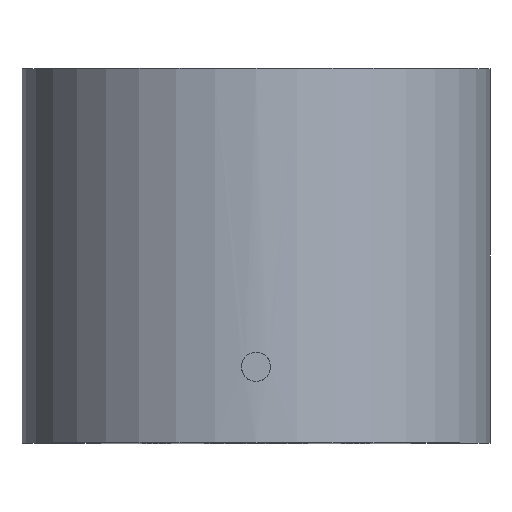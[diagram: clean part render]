
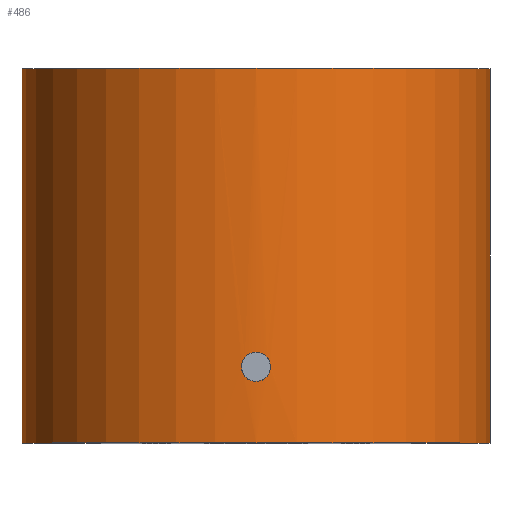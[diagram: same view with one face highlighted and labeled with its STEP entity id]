
A CAD part, top view. The second image highlights one B-rep face of the part: STEP entity #486.
In plain terms, the highlighted cylindrical face has radius 25 mm (diameter 50 mm), a full revolution.
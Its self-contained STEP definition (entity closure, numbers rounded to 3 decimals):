
#13=B_SPLINE_CURVE_WITH_KNOTS('',3,(#855,#856,#857,#858),.UNSPECIFIED.,
 .F.,.F.,(4,4),(0.,0.001),.UNSPECIFIED.);
#14=B_SPLINE_CURVE_WITH_KNOTS('',3,(#860,#861,#862,#863,#864,#865,#866,
#867,#868,#869),.UNSPECIFIED.,.F.,.F.,(4,2,2,2,4),(0.701,0.759,
0.818,0.876,0.934),.UNSPECIFIED.);
#15=B_SPLINE_CURVE_WITH_KNOTS('',3,(#871,#872,#873,#874,#875,#876,#877,
#878,#879,#880,#881,#882,#883,#884,#885,#886,#887,#888),.UNSPECIFIED.,.F.,
 .F.,(4,2,2,2,2,2,2,2,4),(0.234,0.292,0.35,
0.409,0.467,0.526,0.584,
0.642,0.701),.UNSPECIFIED.);
#16=B_SPLINE_CURVE_WITH_KNOTS('',3,(#889,#890,#891,#892,#893,#894,#895,
#896,#897,#898),.UNSPECIFIED.,.F.,.F.,(4,2,2,2,4),(0.001,
0.058,0.117,0.175,0.234),
 .UNSPECIFIED.);
#53=CYLINDRICAL_SURFACE('',#577,25.);
#78=FACE_OUTER_BOUND('',#113,.T.);
#113=EDGE_LOOP('',(#437,#438,#439,#440,#441,#442,#443,#444,#445,#446));
#133=LINE('',#926,#150);
#134=LINE('',#928,#151);
#150=VECTOR('',#736,25.);
#151=VECTOR('',#737,25.);
#171=CIRCLE('',#538,25.);
#196=CIRCLE('',#578,25.);
#219=VERTEX_POINT('',#806);
#237=VERTEX_POINT('',#853);
#238=VERTEX_POINT('',#854);
#239=VERTEX_POINT('',#859);
#240=VERTEX_POINT('',#870);
#248=VERTEX_POINT('',#927);
#276=EDGE_CURVE('',#219,#219,#171,.T.);
#299=EDGE_CURVE('',#237,#238,#13,.T.);
#300=EDGE_CURVE('',#239,#237,#14,.T.);
#301=EDGE_CURVE('',#240,#239,#15,.T.);
#302=EDGE_CURVE('',#238,#240,#16,.T.);
#314=EDGE_CURVE('',#219,#240,#133,.T.);
#315=EDGE_CURVE('',#239,#248,#134,.T.);
#316=EDGE_CURVE('',#248,#248,#196,.T.);
#437=ORIENTED_EDGE('',*,*,#276,.F.);
#438=ORIENTED_EDGE('',*,*,#314,.T.);
#439=ORIENTED_EDGE('',*,*,#301,.T.);
#440=ORIENTED_EDGE('',*,*,#315,.T.);
#441=ORIENTED_EDGE('',*,*,#316,.F.);
#442=ORIENTED_EDGE('',*,*,#315,.F.);
#443=ORIENTED_EDGE('',*,*,#300,.T.);
#444=ORIENTED_EDGE('',*,*,#299,.T.);
#445=ORIENTED_EDGE('',*,*,#302,.T.);
#446=ORIENTED_EDGE('',*,*,#314,.F.);
#486=ADVANCED_FACE('',(#78),#53,.T.);
#538=AXIS2_PLACEMENT_3D('',#807,#647,#648);
#577=AXIS2_PLACEMENT_3D('',#925,#734,#735);
#578=AXIS2_PLACEMENT_3D('',#929,#738,#739);
#647=DIRECTION('center_axis',(0.,-1.,0.));
#648=DIRECTION('ref_axis',(0.,0.,-1.));
#734=DIRECTION('center_axis',(0.,-1.,0.));
#735=DIRECTION('ref_axis',(0.,0.,-1.));
#736=DIRECTION('',(0.,1.,0.));
#737=DIRECTION('',(0.,1.,0.));
#738=DIRECTION('center_axis',(0.,1.,0.));
#739=DIRECTION('ref_axis',(0.,0.,-1.));
#806=CARTESIAN_POINT('',(0.,0.,25.));
#807=CARTESIAN_POINT('Origin',(0.,0.,0.));
#853=CARTESIAN_POINT('',(1.55,8.1,24.952));
#854=CARTESIAN_POINT('',(1.55,8.092,24.952));
#855=CARTESIAN_POINT('Ctrl Pts',(1.55,8.1,24.952));
#856=CARTESIAN_POINT('Ctrl Pts',(1.55,8.097,24.952));
#857=CARTESIAN_POINT('Ctrl Pts',(1.55,8.095,24.952));
#858=CARTESIAN_POINT('Ctrl Pts',(1.55,8.092,24.952));
#859=CARTESIAN_POINT('',(0.,9.65,25.));
#860=CARTESIAN_POINT('Ctrl Pts',(0.,9.65,25.));
#861=CARTESIAN_POINT('Ctrl Pts',(0.195,9.65,25.));
#862=CARTESIAN_POINT('Ctrl Pts',(0.402,9.611,24.997));
#863=CARTESIAN_POINT('Ctrl Pts',(0.784,9.453,24.988));
#864=CARTESIAN_POINT('Ctrl Pts',(0.958,9.334,24.982));
#865=CARTESIAN_POINT('Ctrl Pts',(1.234,9.058,24.97));
#866=CARTESIAN_POINT('Ctrl Pts',(1.353,8.884,24.963));
#867=CARTESIAN_POINT('Ctrl Pts',(1.511,8.502,24.954));
#868=CARTESIAN_POINT('Ctrl Pts',(1.55,8.295,24.952));
#869=CARTESIAN_POINT('Ctrl Pts',(1.55,8.1,24.952));
#870=CARTESIAN_POINT('',(0.,6.55,25.));
#871=CARTESIAN_POINT('Ctrl Pts',(0.,6.55,25.));
#872=CARTESIAN_POINT('Ctrl Pts',(-0.195,6.55,25.));
#873=CARTESIAN_POINT('Ctrl Pts',(-0.402,6.589,24.997));
#874=CARTESIAN_POINT('Ctrl Pts',(-0.784,6.747,24.988));
#875=CARTESIAN_POINT('Ctrl Pts',(-0.958,6.866,24.982));
#876=CARTESIAN_POINT('Ctrl Pts',(-1.234,7.142,24.97));
#877=CARTESIAN_POINT('Ctrl Pts',(-1.353,7.316,24.963));
#878=CARTESIAN_POINT('Ctrl Pts',(-1.511,7.698,24.954));
#879=CARTESIAN_POINT('Ctrl Pts',(-1.55,7.905,24.952));
#880=CARTESIAN_POINT('Ctrl Pts',(-1.55,8.295,24.952));
#881=CARTESIAN_POINT('Ctrl Pts',(-1.511,8.502,24.954));
#882=CARTESIAN_POINT('Ctrl Pts',(-1.353,8.884,24.963));
#883=CARTESIAN_POINT('Ctrl Pts',(-1.234,9.058,24.97));
#884=CARTESIAN_POINT('Ctrl Pts',(-0.958,9.334,24.982));
#885=CARTESIAN_POINT('Ctrl Pts',(-0.784,9.453,24.988));
#886=CARTESIAN_POINT('Ctrl Pts',(-0.402,9.611,24.997));
#887=CARTESIAN_POINT('Ctrl Pts',(-0.195,9.65,25.));
#888=CARTESIAN_POINT('Ctrl Pts',(0.,9.65,25.));
#889=CARTESIAN_POINT('Ctrl Pts',(1.55,8.092,24.952));
#890=CARTESIAN_POINT('Ctrl Pts',(1.549,7.9,24.952));
#891=CARTESIAN_POINT('Ctrl Pts',(1.51,7.695,24.954));
#892=CARTESIAN_POINT('Ctrl Pts',(1.353,7.316,24.963));
#893=CARTESIAN_POINT('Ctrl Pts',(1.234,7.142,24.97));
#894=CARTESIAN_POINT('Ctrl Pts',(0.958,6.866,24.982));
#895=CARTESIAN_POINT('Ctrl Pts',(0.784,6.747,24.988));
#896=CARTESIAN_POINT('Ctrl Pts',(0.402,6.589,24.997));
#897=CARTESIAN_POINT('Ctrl Pts',(0.195,6.55,25.));
#898=CARTESIAN_POINT('Ctrl Pts',(0.,6.55,25.));
#925=CARTESIAN_POINT('Origin',(0.,40.,0.));
#926=CARTESIAN_POINT('',(0.,40.,25.));
#927=CARTESIAN_POINT('',(0.,40.,25.));
#928=CARTESIAN_POINT('',(0.,40.,25.));
#929=CARTESIAN_POINT('Origin',(0.,40.,0.));
